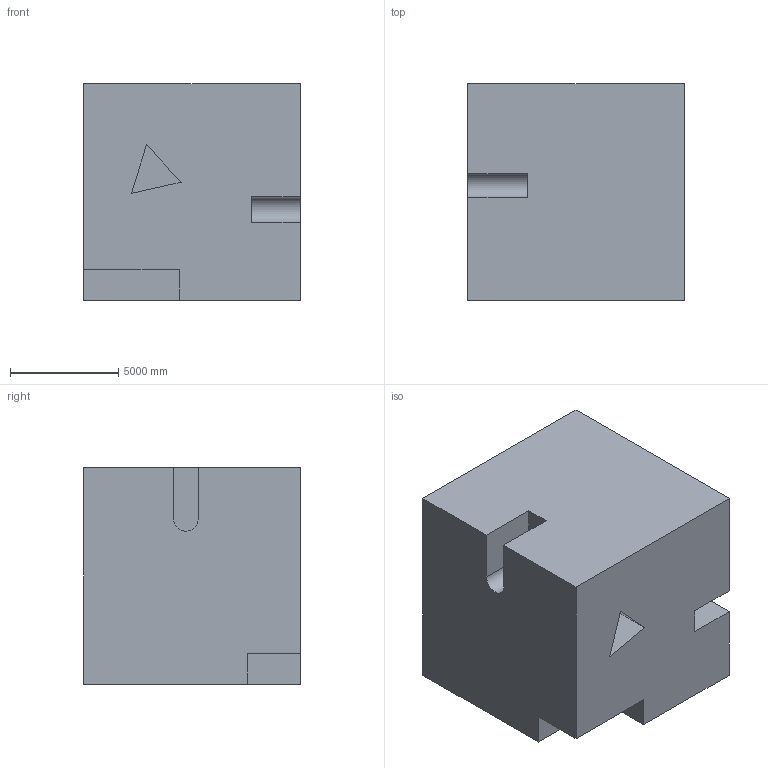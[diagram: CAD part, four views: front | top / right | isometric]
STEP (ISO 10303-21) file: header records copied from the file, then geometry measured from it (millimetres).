
FILE_DESCRIPTION (( 'STEP AP203' ), '1' );
FILE_NAME ('591.STEP', '2022-07-29T11:58:45', ( 'user' ), ( '' ), 'SwSTEP 2.0', 'SolidWorks 2021', '' );
FILE_SCHEMA (( 'CONFIG_CONTROL_DESIGN' ));
Length unit declared in the file: centimetre
Products named in the file (1): 591
Bounding box: 10000 x 10000 x 10000 mm (x, y, z)
Volume: 930530803424.6 mm3; surface area: 719129932.2 mm2
Topology: 1 solids, 1 shells, 33 faces, 78 edges, 52 vertices
Faces by surface type: plane 23, cylinder 10
Entity records: 1029 total; most frequent: DIRECTION 166, CARTESIAN_POINT 164, ORIENTED_EDGE 156, EDGE_CURVE 78, LINE 58, VECTOR 58, AXIS2_PLACEMENT_3D 54, VERTEX_POINT 52
